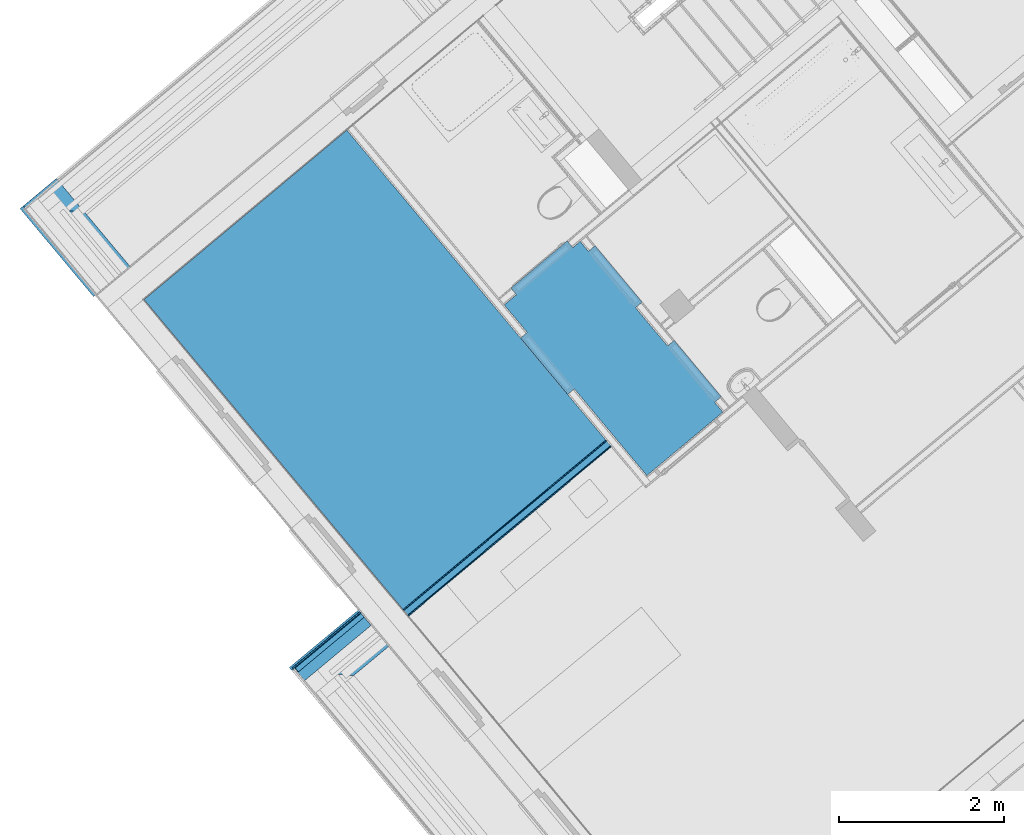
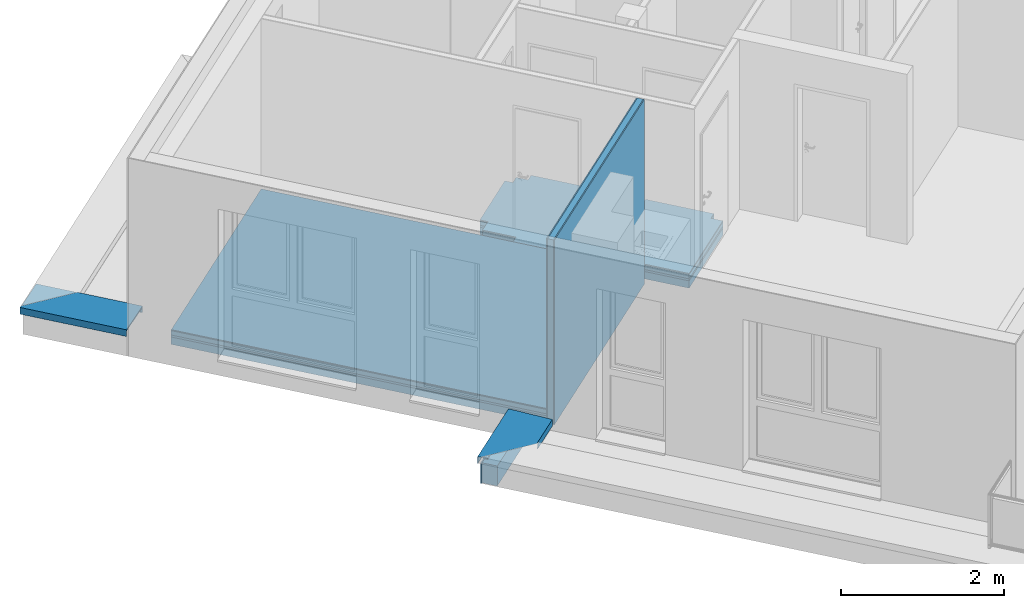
# One storey, part 22 of 58: 17 building element parts, 5 elements without a shape of their own.
"""IFC4 building model written with IfcOpenShell, lengths in metres."""

from ifc_helpers import new_model, entity, si_unit, converted_unit, derived_unit, direction, frame, origin_with_axes, place, context, subcontext, project, spatial, polygons, material, type_object, element, aggregate, save


model = new_model("IFC4")

# Units and contexts
model_context = context("Model", 3, precision=1e-05, world=origin_with_axes(), true_north=direction((0.0, 1.0)))
body_context = subcontext(model_context, "Body", "Model", "MODEL_VIEW")
ifc_project = project(units=[si_unit("LENGTHUNIT", "METRE"), si_unit("AREAUNIT", "SQUARE_METRE"), si_unit("VOLUMEUNIT", "CUBIC_METRE"), converted_unit("PLANEANGLEUNIT", "DEGREE", entity("IfcPlaneAngleMeasure", 0.0174532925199), si_unit("PLANEANGLEUNIT", "RADIAN"), dimensions=[0, 0, 0, 0, 0, 0, 0]), converted_unit("TIMEUNIT", "Year", entity("IfcTimeMeasure", 31556926.0), si_unit("TIMEUNIT", "SECOND"), dimensions=[0, 0, 1, 0, 0, 0, 0]), si_unit("MASSUNIT", "GRAM", prefix="KILO"), si_unit("THERMODYNAMICTEMPERATUREUNIT", "DEGREE_CELSIUS"), si_unit("LUMINOUSINTENSITYUNIT", "LUMEN"), si_unit("ENERGYUNIT", "JOULE", prefix="MEGA"), derived_unit("THERMALCONDUCTANCEUNIT", [(si_unit("POWERUNIT", "WATT"), 1), (si_unit("LENGTHUNIT", "METRE"), -1), (si_unit("THERMODYNAMICTEMPERATUREUNIT", "KELVIN"), -1)]), derived_unit("SPECIFICHEATCAPACITYUNIT", [(si_unit("ENERGYUNIT", "JOULE"), 1), (si_unit("MASSUNIT", "GRAM", prefix="KILO"), -1), (si_unit("THERMODYNAMICTEMPERATUREUNIT", "KELVIN"), -1)]), derived_unit("MASSDENSITYUNIT", [(si_unit("MASSUNIT", "GRAM", prefix="KILO"), 1), (si_unit("VOLUMEUNIT", "CUBIC_METRE"), -1)])], contexts=[model_context])

# Site, building, storey
site_placement = place(None, frame((-0.00153261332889, -0.00661245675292, 0.0), z_axis=(0.0, 0.0, 1.0), x_axis=(1.0, 0.0, 0.0)))
site = spatial("IfcSite", under=ifc_project, at=site_placement, Name="Site", CompositionType="ELEMENT")
building_placement = place(site_placement, origin_with_axes())
building = spatial("IfcBuilding", under=site, at=building_placement, Name="Building", CompositionType="ELEMENT")
storey_placement = place(building_placement, frame((0.0, 0.0, 5.7), z_axis=(0.0, 0.0, 1.0), x_axis=(1.0, 0.0, 0.0)))
storey = spatial("IfcBuildingStorey", under=building, at=storey_placement, Name="DG1", CompositionType="ELEMENT", Elevation=5.7)

# Wall, building element parts
wall_type_1 = type_object("IfcWallType", Name="IW LB 01 Leichtbautrennwand einfach 10,5 cm 105", PredefinedType="NOTDEFINED")
wall_1_placement = place(storey_placement, frame((-2.49988703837, 17.264591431, 0.0), z_axis=(0.0, 0.0, 1.0), x_axis=(-0.767365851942, -0.641209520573, 0.0)))
wall_1 = element("IfcWall", 1, at=wall_1_placement, inside=storey, type_object=wall_type_1, Name="Wand-012", PredefinedType="NOTDEFINED")
ifc_material_1 = material(Name="Gipskarton")
building_element_part_1_placement = place(wall_1_placement, origin_with_axes())
building_element_part_1 = element("IfcBuildingElementPart", 2, at=building_element_part_1_placement, material=ifc_material_1, Name="Gipskarton", PredefinedType="NOTDEFINED", context=body_context, shape_type="Tessellation", body=[
    polygons([(3.20025354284, 0.09, 0.0), (0.0, 0.09, 0.0), (0.0, 0.105, 0.0), (3.20025354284, 0.105, 0.0), (3.20025354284, 0.09, 2.76), (0.0, 0.09, 2.76), (0.0, 0.105, 2.76), (3.20025354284, 0.105, 2.76)], [[[1, 2, 3, 4]], [[5, 6, 2, 1]], [[3, 2, 6, 7]], [[4, 3, 7, 8]], [[4, 8, 5, 1]], [[8, 7, 6, 5]]], closed=True),
])
ifc_material_2 = material(Name="Mineralwolle weich")
building_element_part_2_placement = place(wall_1_placement, origin_with_axes())
building_element_part_2 = element("IfcBuildingElementPart", 3, at=building_element_part_2_placement, material=ifc_material_2, Name="Mineralwolle weich", PredefinedType="NOTDEFINED", context=body_context, shape_type="Tessellation", body=[
    polygons([(3.20025354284, 0.015, 0.0), (0.0, 0.015, 0.0), (0.0, 0.09, 0.0), (3.20025354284, 0.09, 0.0), (3.20025354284, 0.015, 2.76), (0.0, 0.015, 2.76), (0.0, 0.09, 2.76), (3.20025354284, 0.09, 2.76)], [[[1, 2, 3, 4]], [[5, 6, 2, 1]], [[3, 2, 6, 7]], [[4, 3, 7, 8]], [[4, 8, 5, 1]], [[8, 7, 6, 5]]], closed=True),
])
building_element_part_3_placement = place(wall_1_placement, origin_with_axes())
building_element_part_3 = element("IfcBuildingElementPart", 4, at=building_element_part_3_placement, material=ifc_material_1, Name="Gipskarton", PredefinedType="NOTDEFINED", context=body_context, shape_type="Tessellation", body=[
    polygons([(3.20025354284, 0.0, 0.0), (0.0, 0.0, 0.0), (0.0, 0.015, 0.0), (3.20025354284, 0.015, 0.0), (3.20025354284, 0.0, 2.76), (0.0, 0.0, 2.76), (0.0, 0.015, 2.76), (3.20025354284, 0.015, 2.76)], [[[1, 2, 3, 4]], [[5, 6, 2, 1]], [[3, 2, 6, 7]], [[4, 3, 7, 8]], [[4, 8, 5, 1]], [[8, 7, 6, 5]]], closed=True),
])
aggregate(wall_1, [building_element_part_1, building_element_part_2, building_element_part_3])

# Covering, building element parts
covering_type_1 = type_object("IfcCoveringType", Name="DE 01 Decke Wohnung/Wohnung Parkett 220", PredefinedType="NOTDEFINED")
covering_1_placement = place(storey_placement, frame((-5.63570752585, 21.0173764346, 0.22), z_axis=(0.0, 0.0, 1.0), x_axis=(1.0, 0.0, 0.0)))
covering_1 = element("IfcCovering", 5, at=covering_1_placement, inside=storey, type_object=covering_type_1, Name="Decke-009", PredefinedType="NOTDEFINED")
ifc_material_3 = material(Name="Parkett")
building_element_part_4_placement = place(covering_1_placement, origin_with_axes())
building_element_part_4 = element("IfcBuildingElementPart", 6, at=building_element_part_4_placement, material=ifc_material_3, Name="Parkett", PredefinedType="NOTDEFINED", context=body_context, shape_type="Tessellation", body=[
    polygons([(0.0, 0.0, -0.015), (-2.45576522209, -2.05203295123, -0.015), (-2.45576522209, -2.05203295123, 0.0), (0.0, 0.0, 0.0), (3.13582050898, -3.75278509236, -0.015), (0.680055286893, -5.8048180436, -0.015), (0.680055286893, -5.8048180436, 0.0), (3.13582050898, -3.75278509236, 0.0)], [[[1, 2, 3, 4]], [[2, 1, 5, 6]], [[2, 6, 7, 3]], [[8, 4, 3, 7]], [[5, 1, 4, 8]], [[6, 5, 8, 7]]], closed=True),
])
ifc_material_4 = material(Name="Estrich")
building_element_part_5_placement = place(covering_1_placement, origin_with_axes())
building_element_part_5 = element("IfcBuildingElementPart", 7, at=building_element_part_5_placement, material=ifc_material_4, Name="Estrich", PredefinedType="NOTDEFINED", context=body_context, shape_type="Tessellation", body=[
    polygons([(0.0, 0.0, -0.08), (-2.45576522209, -2.05203295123, -0.08), (-2.45576522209, -2.05203295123, -0.015), (0.0, 0.0, -0.015), (3.13582050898, -3.75278509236, -0.08), (0.680055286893, -5.8048180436, -0.08), (0.680055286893, -5.8048180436, -0.015), (3.13582050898, -3.75278509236, -0.015)], [[[1, 2, 3, 4]], [[2, 1, 5, 6]], [[2, 6, 7, 3]], [[8, 4, 3, 7]], [[5, 1, 4, 8]], [[6, 5, 8, 7]]], closed=True),
])
ifc_material_5 = material(Name="Trittschalldämmung")
building_element_part_6_placement = place(covering_1_placement, origin_with_axes())
building_element_part_6 = element("IfcBuildingElementPart", 8, at=building_element_part_6_placement, material=ifc_material_5, Name="Trittschalldämmung", PredefinedType="NOTDEFINED", context=body_context, shape_type="Tessellation", body=[
    polygons([(0.0, 0.0, -0.11), (-2.45576522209, -2.05203295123, -0.11), (-2.45576522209, -2.05203295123, -0.08), (0.0, 0.0, -0.08), (3.13582050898, -3.75278509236, -0.11), (0.680055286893, -5.8048180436, -0.11), (0.680055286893, -5.8048180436, -0.08), (3.13582050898, -3.75278509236, -0.08)], [[[1, 2, 3, 4]], [[2, 1, 5, 6]], [[2, 6, 7, 3]], [[8, 4, 3, 7]], [[5, 1, 4, 8]], [[6, 5, 8, 7]]], closed=True),
])
ifc_material_6 = material(Name="Schüttung")
building_element_part_7_placement = place(covering_1_placement, origin_with_axes())
building_element_part_7 = element("IfcBuildingElementPart", 9, at=building_element_part_7_placement, material=ifc_material_6, Name="Schüttung", PredefinedType="NOTDEFINED", context=body_context, shape_type="Tessellation", body=[
    polygons([(0.0, 0.0, -0.11), (0.0, 0.0, -0.22), (-2.45576522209, -2.05203295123, -0.22), (-2.45576522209, -2.05203295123, -0.11), (3.13582050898, -3.75278509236, -0.11), (3.13582050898, -3.75278509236, -0.22), (0.680055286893, -5.8048180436, -0.22), (0.680055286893, -5.8048180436, -0.11)], [[[1, 2, 3, 4]], [[5, 6, 2, 1]], [[3, 2, 6, 7]], [[4, 3, 7, 8]], [[5, 1, 4, 8]], [[8, 7, 6, 5]]], closed=True),
])
aggregate(covering_1, [building_element_part_4, building_element_part_5, building_element_part_6, building_element_part_7])

covering_type_2 = type_object("IfcCoveringType", Name="DE 01 Decke Wohnung/Wohnung Fließen 220", PredefinedType="NOTDEFINED")
covering_2_placement = place(storey_placement, frame((-3.58229735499, 19.0241226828, 0.22), z_axis=(0.0, 0.0, 1.0), x_axis=(1.0, 0.0, 0.0)))
covering_2 = element("IfcCovering", 10, at=covering_2_placement, inside=storey, type_object=covering_type_2, Name="Decke-003", PredefinedType="NOTDEFINED")
ifc_material_7 = material(Name="Fliesen")
building_element_part_8_placement = place(covering_2_placement, origin_with_axes())
building_element_part_8 = element("IfcBuildingElementPart", 11, at=building_element_part_8_placement, material=ifc_material_7, Name="Fliesen", PredefinedType="NOTDEFINED", context=body_context, shape_type="Tessellation", body=[
    polygons([(0.772026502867, 0.645686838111, -0.015), (0.772026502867, 0.645686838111, 0.0), (0.871992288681, 0.526053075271, 0.0), (0.871992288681, 0.526053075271, -0.015), (0.682704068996, 0.570977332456, 0.0), (0.682704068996, 0.570977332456, -0.015), (0.6825988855, 0.57110308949, 0.0), (0.615338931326, 0.651518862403, 0.0), (-0.0673464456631, 0.0805191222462, 0.0), (-1.94673659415e-08, -1.62825521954e-08, 0.0), (1.87046381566e-05, -2.24027601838e-05, 0.0), (-0.147735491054, -0.123604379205, 0.0), (0.13108354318, -0.457280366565, 0.0), (0.0505101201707, -0.524607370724, 0.0), (0.621186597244, -1.20756298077, 0.0), (0.701760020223, -1.14023597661, 0.0), (1.57974343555, -2.1909603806, 0.0), (2.49986944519, -1.42210479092, 0.0), (2.40026170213, -1.30289938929, 0.0), (2.48083508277, -1.23557242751, 0.0), (1.91015864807, -0.552616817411, 0.0), (1.82958522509, -0.61994382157, 0.0), (1.44266872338, -0.156902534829, 0.0), (1.52324214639, -0.0895755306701, 0.0), (0.952565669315, 0.59338007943, 0.0), (0.952565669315, 0.59338007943, -0.015), (1.52324214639, -0.0895755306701, -0.015), (1.44266872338, -0.156902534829, -0.015), (1.82958522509, -0.61994382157, -0.015), (1.91015864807, -0.552616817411, -0.015), (2.48083508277, -1.23557242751, -0.015), (2.40026170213, -1.30289938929, -0.015), (2.49986944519, -1.42210479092, -0.015), (1.57974343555, -2.1909603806, -0.015), (0.701760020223, -1.14023597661, -0.015), (0.621186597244, -1.20756298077, -0.015), (0.0505101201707, -0.524607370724, -0.015), (0.13108354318, -0.457280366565, -0.015), (-0.147735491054, -0.123604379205, -0.015), (1.87046381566e-05, -2.24027601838e-05, -0.015), (-1.94673659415e-08, -1.62825521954e-08, -0.015), (-0.0673464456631, 0.0805191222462, -0.015), (0.615338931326, 0.651518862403, -0.015), (0.6825988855, 0.57110308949, -0.015)], [[[1, 2, 3, 4]], [[5, 2, 1, 6]], [[5, 7, 8, 9, 10, 11, 12, 13, 14, 15, 16, 17, 18, 19, 20, 21, 22, 23, 24, 25, 3, 2]], [[26, 4, 3, 25]], [[6, 1, 4, 26, 27, 28, 29, 30, 31, 32, 33, 34, 35, 36, 37, 38, 39, 40, 41, 42, 43, 44]], [[7, 5, 6, 44]], [[7, 44, 43, 8]], [[43, 42, 9, 8]], [[41, 10, 9, 42]], [[11, 10, 41, 40]], [[12, 11, 40, 39]], [[12, 39, 38, 13]], [[38, 37, 14, 13]], [[37, 36, 15, 14]], [[36, 35, 16, 15]], [[35, 34, 17, 16]], [[34, 33, 18, 17]], [[33, 32, 19, 18]], [[32, 31, 20, 19]], [[31, 30, 21, 20]], [[30, 29, 22, 21]], [[29, 28, 23, 22]], [[28, 27, 24, 23]], [[27, 26, 25, 24]]], closed=True),
])
building_element_part_9_placement = place(covering_2_placement, origin_with_axes())
building_element_part_9 = element("IfcBuildingElementPart", 12, at=building_element_part_9_placement, material=ifc_material_4, Name="Estrich", PredefinedType="NOTDEFINED", context=body_context, shape_type="Tessellation", body=[
    polygons([(0.772026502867, 0.645686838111, -0.08), (0.772026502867, 0.645686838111, -0.015), (0.871992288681, 0.526053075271, -0.015), (0.871992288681, 0.526053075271, -0.08), (0.682704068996, 0.570977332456, -0.015), (0.682704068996, 0.570977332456, -0.08), (0.6825988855, 0.57110308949, -0.015), (0.615338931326, 0.651518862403, -0.015), (-0.0673464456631, 0.0805191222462, -0.015), (-1.94673659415e-08, -1.62825521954e-08, -0.015), (1.87046381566e-05, -2.24027601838e-05, -0.015), (-0.147735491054, -0.123604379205, -0.015), (0.13108354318, -0.457280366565, -0.015), (0.0505101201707, -0.524607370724, -0.015), (0.621186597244, -1.20756298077, -0.015), (0.701760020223, -1.14023597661, -0.015), (1.57974343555, -2.1909603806, -0.015), (2.49986944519, -1.42210479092, -0.015), (2.40026170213, -1.30289938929, -0.015), (2.48083508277, -1.23557242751, -0.015), (1.91015864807, -0.552616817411, -0.015), (1.82958522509, -0.61994382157, -0.015), (1.44266872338, -0.156902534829, -0.015), (1.52324214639, -0.0895755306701, -0.015), (0.952565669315, 0.59338007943, -0.015), (0.952565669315, 0.59338007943, -0.08), (1.52324214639, -0.0895755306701, -0.08), (1.44266872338, -0.156902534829, -0.08), (1.82958522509, -0.61994382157, -0.08), (1.91015864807, -0.552616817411, -0.08), (2.48083508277, -1.23557242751, -0.08), (2.40026170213, -1.30289938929, -0.08), (2.49986944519, -1.42210479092, -0.08), (1.57974343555, -2.1909603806, -0.08), (0.701760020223, -1.14023597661, -0.08), (0.621186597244, -1.20756298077, -0.08), (0.0505101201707, -0.524607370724, -0.08), (0.13108354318, -0.457280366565, -0.08), (-0.147735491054, -0.123604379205, -0.08), (1.87046381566e-05, -2.24027601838e-05, -0.08), (-1.94673659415e-08, -1.62825521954e-08, -0.08), (-0.0673464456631, 0.0805191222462, -0.08), (0.615338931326, 0.651518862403, -0.08), (0.6825988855, 0.57110308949, -0.08)], [[[1, 2, 3, 4]], [[5, 2, 1, 6]], [[5, 7, 8, 9, 10, 11, 12, 13, 14, 15, 16, 17, 18, 19, 20, 21, 22, 23, 24, 25, 3, 2]], [[26, 4, 3, 25]], [[6, 1, 4, 26, 27, 28, 29, 30, 31, 32, 33, 34, 35, 36, 37, 38, 39, 40, 41, 42, 43, 44]], [[7, 5, 6, 44]], [[7, 44, 43, 8]], [[43, 42, 9, 8]], [[41, 10, 9, 42]], [[11, 10, 41, 40]], [[12, 11, 40, 39]], [[12, 39, 38, 13]], [[38, 37, 14, 13]], [[37, 36, 15, 14]], [[36, 35, 16, 15]], [[35, 34, 17, 16]], [[34, 33, 18, 17]], [[33, 32, 19, 18]], [[32, 31, 20, 19]], [[31, 30, 21, 20]], [[30, 29, 22, 21]], [[29, 28, 23, 22]], [[28, 27, 24, 23]], [[27, 26, 25, 24]]], closed=True),
])
building_element_part_10_placement = place(covering_2_placement, origin_with_axes())
building_element_part_10 = element("IfcBuildingElementPart", 13, at=building_element_part_10_placement, material=ifc_material_5, Name="Trittschalldämmung", PredefinedType="NOTDEFINED", context=body_context, shape_type="Tessellation", body=[
    polygons([(0.772026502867, 0.645686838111, -0.11), (0.772026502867, 0.645686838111, -0.08), (0.871992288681, 0.526053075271, -0.08), (0.871992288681, 0.526053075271, -0.11), (0.682704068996, 0.570977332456, -0.08), (0.682704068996, 0.570977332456, -0.11), (0.6825988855, 0.57110308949, -0.08), (0.615338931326, 0.651518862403, -0.08), (-0.0673464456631, 0.0805191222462, -0.08), (-1.94673659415e-08, -1.62825521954e-08, -0.08), (1.87046381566e-05, -2.24027601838e-05, -0.08), (-0.147735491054, -0.123604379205, -0.08), (0.13108354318, -0.457280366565, -0.08), (0.0505101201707, -0.524607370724, -0.08), (0.621186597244, -1.20756298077, -0.08), (0.701760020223, -1.14023597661, -0.08), (1.57974343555, -2.1909603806, -0.08), (2.49986944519, -1.42210479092, -0.08), (2.40026170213, -1.30289938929, -0.08), (2.48083508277, -1.23557242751, -0.08), (1.91015864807, -0.552616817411, -0.08), (1.82958522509, -0.61994382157, -0.08), (1.44266872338, -0.156902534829, -0.08), (1.52324214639, -0.0895755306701, -0.08), (0.952565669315, 0.59338007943, -0.08), (0.952565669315, 0.59338007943, -0.11), (1.52324214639, -0.0895755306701, -0.11), (1.44266872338, -0.156902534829, -0.11), (1.82958522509, -0.61994382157, -0.11), (1.91015864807, -0.552616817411, -0.11), (2.48083508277, -1.23557242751, -0.11), (2.40026170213, -1.30289938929, -0.11), (2.49986944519, -1.42210479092, -0.11), (1.57974343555, -2.1909603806, -0.11), (0.701760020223, -1.14023597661, -0.11), (0.621186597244, -1.20756298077, -0.11), (0.0505101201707, -0.524607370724, -0.11), (0.13108354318, -0.457280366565, -0.11), (-0.147735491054, -0.123604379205, -0.11), (1.87046381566e-05, -2.24027601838e-05, -0.11), (-1.94673659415e-08, -1.62825521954e-08, -0.11), (-0.0673464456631, 0.0805191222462, -0.11), (0.615338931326, 0.651518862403, -0.11), (0.6825988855, 0.57110308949, -0.11)], [[[1, 2, 3, 4]], [[5, 2, 1, 6]], [[5, 7, 8, 9, 10, 11, 12, 13, 14, 15, 16, 17, 18, 19, 20, 21, 22, 23, 24, 25, 3, 2]], [[26, 4, 3, 25]], [[6, 1, 4, 26, 27, 28, 29, 30, 31, 32, 33, 34, 35, 36, 37, 38, 39, 40, 41, 42, 43, 44]], [[7, 5, 6, 44]], [[7, 44, 43, 8]], [[43, 42, 9, 8]], [[41, 10, 9, 42]], [[11, 10, 41, 40]], [[12, 11, 40, 39]], [[12, 39, 38, 13]], [[38, 37, 14, 13]], [[37, 36, 15, 14]], [[36, 35, 16, 15]], [[35, 34, 17, 16]], [[34, 33, 18, 17]], [[33, 32, 19, 18]], [[32, 31, 20, 19]], [[31, 30, 21, 20]], [[30, 29, 22, 21]], [[29, 28, 23, 22]], [[28, 27, 24, 23]], [[27, 26, 25, 24]]], closed=True),
])
building_element_part_11_placement = place(covering_2_placement, origin_with_axes())
building_element_part_11 = element("IfcBuildingElementPart", 14, at=building_element_part_11_placement, material=ifc_material_6, Name="Schüttung", PredefinedType="NOTDEFINED", context=body_context, shape_type="Tessellation", body=[
    polygons([(0.772026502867, 0.645686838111, -0.22), (0.772026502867, 0.645686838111, -0.11), (0.871992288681, 0.526053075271, -0.11), (0.871992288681, 0.526053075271, -0.22), (0.682704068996, 0.570977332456, -0.11), (0.682704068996, 0.570977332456, -0.22), (0.6825988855, 0.57110308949, -0.11), (0.615338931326, 0.651518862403, -0.11), (-0.0673464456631, 0.0805191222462, -0.11), (-1.94673659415e-08, -1.62825521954e-08, -0.11), (1.87046381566e-05, -2.24027601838e-05, -0.11), (-0.147735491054, -0.123604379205, -0.11), (0.13108354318, -0.457280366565, -0.11), (0.0505101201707, -0.524607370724, -0.11), (0.621186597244, -1.20756298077, -0.11), (0.701760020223, -1.14023597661, -0.11), (1.57974343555, -2.1909603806, -0.11), (2.49986944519, -1.42210479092, -0.11), (2.40026170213, -1.30289938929, -0.11), (2.48083508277, -1.23557242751, -0.11), (1.91015864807, -0.552616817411, -0.11), (1.82958522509, -0.61994382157, -0.11), (1.44266872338, -0.156902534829, -0.11), (1.52324214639, -0.0895755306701, -0.11), (0.952565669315, 0.59338007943, -0.11), (0.952565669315, 0.59338007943, -0.22), (1.52324214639, -0.0895755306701, -0.22), (1.44266872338, -0.156902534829, -0.22), (1.82958522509, -0.61994382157, -0.22), (1.91015864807, -0.552616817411, -0.22), (2.48083508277, -1.23557242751, -0.22), (2.40026170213, -1.30289938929, -0.22), (2.49986944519, -1.42210479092, -0.22), (1.57974343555, -2.1909603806, -0.22), (0.701760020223, -1.14023597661, -0.22), (0.621186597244, -1.20756298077, -0.22), (0.0505101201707, -0.524607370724, -0.22), (0.13108354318, -0.457280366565, -0.22), (-0.147735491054, -0.123604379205, -0.22), (1.87046381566e-05, -2.24027601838e-05, -0.22), (-1.94673646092e-08, -1.62825521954e-08, -0.22), (-0.0673464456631, 0.0805191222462, -0.22), (0.615338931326, 0.651518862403, -0.22), (0.682598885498, 0.571103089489, -0.22)], [[[1, 2, 3, 4]], [[5, 2, 1, 6]], [[5, 7, 8, 9, 10, 11, 12, 13, 14, 15, 16, 17, 18, 19, 20, 21, 22, 23, 24, 25, 3, 2]], [[25, 26, 4, 3]], [[6, 1, 4, 26, 27, 28, 29, 30, 31, 32, 33, 34, 35, 36, 37, 38, 39, 40, 41, 42, 43, 44]], [[7, 5, 6, 44]], [[7, 44, 43, 8]], [[8, 43, 42, 9]], [[41, 10, 9, 42]], [[11, 10, 41, 40]], [[12, 11, 40, 39]], [[12, 39, 38, 13]], [[13, 38, 37, 14]], [[14, 37, 36, 15]], [[15, 36, 35, 16]], [[16, 35, 34, 17]], [[17, 34, 33, 18]], [[18, 33, 32, 19]], [[19, 32, 31, 20]], [[20, 31, 30, 21]], [[21, 30, 29, 22]], [[22, 29, 28, 23]], [[23, 28, 27, 24]], [[24, 27, 26, 25]]], closed=True),
])
aggregate(covering_2, [building_element_part_8, building_element_part_9, building_element_part_10, building_element_part_11])

# Wall, building element parts
wall_type_2 = type_object("IfcWallType", Name="Bauteil - Attika Terrasse 1.DG 574 x 410", PredefinedType="NOTDEFINED")
wall_2_placement = place(storey_placement, frame((-5.34189117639, 15.0197766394, -0.2), z_axis=(0.0, 0.0, 1.0), x_axis=(-0.768971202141, -0.639283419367, 0.0)))
wall_2 = element("IfcWall", 15, at=wall_2_placement, inside=storey, type_object=wall_type_2, Name="Wand-003", PredefinedType="NOTDEFINED")
ifc_material_8 = material(Name="Stahl")
building_element_part_12_placement = place(wall_2_placement, origin_with_axes())
building_element_part_12 = element("IfcBuildingElementPart", 16, at=building_element_part_12_placement, material=ifc_material_8, Name="Stahl", PredefinedType="NOTDEFINED", context=body_context, shape_type="Tessellation", body=[
    polygons([(1.08738524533, -0.238231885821, 0.511361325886), (1.08051224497, -0.23137340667, 0.518219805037), (1.07950992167, -0.23228372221, 0.519224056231), (1.08738929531, -0.24014644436, 0.511361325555), (1.08873905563, -0.238231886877, 0.511361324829), (1.08874191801, -0.239585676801, 0.510007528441), (1.08778665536, -0.240542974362, 0.509050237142), (0.0, -0.240542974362, 0.509050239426), (0.0, -0.231373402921, 0.518219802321), (0.0, -0.232283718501, 0.519224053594), (0.0, -0.240146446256, 0.51136132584), (1.08874310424, -0.240146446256, 0.51136132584), (1.08874311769, -0.240152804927, 0.608602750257), (1.08866395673, -0.202730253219, 0.608602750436), (1.08874596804, -0.241500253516, 0.610006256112), (1.08874596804, -0.241500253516, 0.510007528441), (0.0, -0.241500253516, 0.510007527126), (0.0, -0.241500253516, 0.610006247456), (0.0, 0.332051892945, 0.589243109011), (0.0, 0.332051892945, 0.489652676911), (0.0, 0.331094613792, 0.488695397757), (0.0, 0.321878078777, 0.497911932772), (0.0, 0.32288233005, 0.498822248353), (0.0, 0.330698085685, 0.491006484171), (0.0, 0.330698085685, 0.587937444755), (0.0, -0.239276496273, 0.608570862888), (0.0, -0.240152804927, 0.608602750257), (1.08739566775, -0.240152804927, 0.608602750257), (1.0873165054, -0.202730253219, 0.608602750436), (1.086438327, -0.201849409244, 0.608570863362), (0.551370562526, 0.332051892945, 0.589243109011), (0.517247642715, 0.332051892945, 0.49100648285), (0.515893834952, 0.332051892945, 0.489652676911), (0.515333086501, 0.332051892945, 0.587938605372), (0.515333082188, 0.332051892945, 0.586106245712), (0.515333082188, 0.332051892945, 0.584015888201), (0.515333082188, 0.332051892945, 0.575979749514), (0.515333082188, 0.332051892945, 0.573880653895), (0.515333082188, 0.332051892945, 0.567947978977), (0.515333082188, 0.332051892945, 0.559999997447), (0.515333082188, 0.332051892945, 0.519224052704), (0.515333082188, 0.332051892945, 0.511361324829), (0.515333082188, 0.332051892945, 0.50905023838), (0.515333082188, 0.332051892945, 0.499999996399), (0.515333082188, 0.332051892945, 0.498822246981), (0.515333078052, 0.332051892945, 0.491006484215), (0.514938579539, 0.331094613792, 0.488695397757), (0.517254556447, 0.328783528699, 0.49100648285), (0.524174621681, 0.32187807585, 0.497911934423), (0.523168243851, 0.322882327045, 0.498822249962), (0.524170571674, 0.323792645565, 0.497911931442), (0.517250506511, 0.330698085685, 0.491006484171), (0.515335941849, 0.330698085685, 0.491006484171), (0.515335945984, 0.330698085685, 0.586106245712), (0.51533599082, 0.330698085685, 0.587937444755), (0.515335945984, 0.330698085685, 0.498822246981), (0.515335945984, 0.330698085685, 0.499999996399), (0.515335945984, 0.330698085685, 0.50905023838), (0.515335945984, 0.330698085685, 0.511361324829), (0.515335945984, 0.330698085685, 0.519224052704), (0.515335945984, 0.330698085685, 0.559999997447), (0.515335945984, 0.330698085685, 0.567947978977), (0.515335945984, 0.330698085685, 0.573880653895), (0.515335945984, 0.330698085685, 0.575979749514), (0.515335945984, 0.330698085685, 0.584015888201), (0.515336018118, 0.330666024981, 0.587938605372), (1.08651749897, -0.239276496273, 0.608570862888)], [[[1, 2, 3, 4]], [[2, 1, 5, 6, 7, 8, 9]], [[3, 2, 9, 10]], [[4, 3, 10, 11]], [[12, 5, 1, 4]], [[13, 14, 15, 16, 6, 5, 12]], [[16, 7, 6]], [[7, 16, 17, 8]], [[8, 17, 18, 19, 20, 21, 22, 23, 24, 25, 26, 27, 11, 10, 9]], [[13, 12, 4, 11, 27, 28]], [[14, 13, 28, 29]], [[30, 31, 19, 18, 15, 14, 29]], [[16, 15, 18, 17]], [[32, 33, 20, 19, 31, 34, 35, 36, 37, 38, 39, 40, 41, 42, 43, 44, 45, 46]], [[33, 47, 21, 20]], [[48, 49, 22, 21, 47]], [[49, 50, 23, 22]], [[51, 52, 53, 24, 23, 50]], [[54, 55, 25, 24, 53, 56, 57, 58, 59, 60, 61, 62, 63, 64, 65]], [[55, 66, 67, 26, 25]], [[67, 28, 27, 26]], [[67, 30, 29, 28]], [[31, 30, 67, 66, 55, 34]], [[52, 48, 47, 33, 32]], [[34, 55, 54, 35]], [[36, 35, 54, 65]], [[37, 36, 65, 64]], [[38, 37, 64, 63]], [[39, 38, 63, 62]], [[40, 39, 62, 61]], [[41, 40, 61, 60]], [[42, 41, 60, 59]], [[58, 43, 42, 59]], [[57, 44, 43, 58]], [[56, 45, 44, 57]], [[45, 56, 53, 46]], [[52, 32, 46, 53]], [[48, 52, 51, 49]], [[49, 51, 50]]], closed=True),
])
ifc_material_9 = material(Name="EPS 1")
building_element_part_13_placement = place(wall_2_placement, origin_with_axes())
building_element_part_13 = element("IfcBuildingElementPart", 17, at=building_element_part_13_placement, material=ifc_material_9, Name="EPS 1", PredefinedType="NOTDEFINED", context=body_context, shape_type="Tessellation", body=[
    polygons([(1.04715779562, -0.19999996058, 0.499999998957), (1.04673472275, -2.39909425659e-10, 0.499999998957), (0.0, -2.39909425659e-10, 0.499999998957), (0.0, -0.19999996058, 0.499999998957), (1.04673472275, -2.39909425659e-10, 0.498822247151), (1.04715779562, -0.19999996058, 0.498822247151), (1.04673472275, -2.39909425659e-10, 0.49100648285), (1.04673472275, -2.39909425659e-10, 0.488695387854), (1.04673472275, -2.39909425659e-10, 0.335), (1.04673472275, -2.39907649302e-10, 0.2), (0.0, -2.39909425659e-10, 0.2), (0.0, -0.19999996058, 0.2), (1.04715779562, -0.19999996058, 0.2), (1.04715779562, -0.19999996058, 0.335), (1.04715779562, -0.19999996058, 0.488695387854), (1.04715779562, -0.19999996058, 0.49100648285)], [[[1, 2, 3, 4]], [[5, 2, 1, 6]], [[2, 5, 7, 8, 9, 10, 11, 3]], [[12, 4, 3, 11]], [[6, 1, 4, 12, 13, 14, 15, 16]], [[5, 6, 16, 7]], [[7, 16, 15, 8]], [[8, 15, 14, 9]], [[9, 14, 13, 10]], [[10, 13, 12, 11]]], closed=True),
])
ifc_material_10 = material(Name="Vollholz")
building_element_part_14_placement = place(wall_2_placement, origin_with_axes())
building_element_part_14 = element("IfcBuildingElementPart", 18, at=building_element_part_14_placement, material=ifc_material_10, Name="Vollholz", PredefinedType="NOTDEFINED", context=body_context, shape_type="Tessellation", body=[
    polygons([(1.03712153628, -0.189984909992, 0.586106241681), (1.03700612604, -0.130124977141, 0.584015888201), (0.0, -0.130124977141, 0.584015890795), (0.0, -0.189984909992, 0.586106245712), (1.03713277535, -0.189996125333, 0.584015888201), (1.03704924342, -0.130124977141, 0.575979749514), (1.03706050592, -0.130124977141, 0.573880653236), (1.03709233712, -0.130124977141, 0.567947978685), (1.03713498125, -0.130124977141, 0.559999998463), (0.0, -0.130124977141, 0.560000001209), (0.0, -0.190124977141, 0.560000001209), (1.03726190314, -0.190124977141, 0.559999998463), (1.0372191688, -0.190082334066, 0.567947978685), (1.03718727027, -0.190050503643, 0.573880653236), (1.03717598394, -0.190039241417, 0.575979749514)], [[[1, 2, 3, 4]], [[5, 2, 1]], [[2, 6, 7, 8, 9, 10, 3]], [[10, 11, 4, 3]], [[5, 1, 4, 11, 12, 13, 14, 15]], [[2, 5, 15, 6]], [[6, 15, 14, 7]], [[7, 14, 13, 8]], [[8, 13, 12, 9]], [[9, 12, 11, 10]]], closed=True),
])
ifc_material_11 = material(Name="Zementputz")
building_element_part_15_placement = place(wall_2_placement, origin_with_axes())
building_element_part_15 = element("IfcBuildingElementPart", 19, at=building_element_part_15_placement, material=ifc_material_11, Name="Zementputz", PredefinedType="NOTDEFINED", context=body_context, shape_type="Tessellation", body=[
    polygons([(1.06218956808, -0.214999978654, 0.499999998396), (1.06215783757, -0.199999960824, 0.499999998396), (0.0, -0.199999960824, 0.499999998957), (0.0, -0.214999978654, 0.499999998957), (1.06215783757, -0.199999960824, 0.2), (1.06218956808, -0.214999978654, 0.2), (0.0, -0.199999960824, 0.2), (0.0, -0.214999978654, 0.2)], [[[1, 2, 3, 4]], [[5, 2, 1, 6]], [[2, 5, 7, 3]], [[3, 7, 8, 4]], [[6, 1, 4, 8]], [[5, 6, 8, 7]]], closed=True),
])
aggregate(wall_2, [building_element_part_12, building_element_part_13, building_element_part_14, building_element_part_15])

wall_3_placement = place(storey_placement, frame((-9.25321199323, 20.0359436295, -0.2), z_axis=(0.0, 0.0, 1.0), x_axis=(0.641209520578, -0.767365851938, 0.0)))
wall_3 = element("IfcWall", 20, at=wall_3_placement, inside=storey, type_object=wall_type_2, Name="Wand-004", PredefinedType="NOTDEFINED")
building_element_part_16_placement = place(wall_3_placement, origin_with_axes())
building_element_part_16 = element("IfcBuildingElementPart", 21, at=building_element_part_16_placement, material=ifc_material_8, Name="Stahl", PredefinedType="NOTDEFINED", context=body_context, shape_type="Tessellation", body=[
    polygons([(-0.240543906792, -0.240542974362, 0.50905023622), (-0.241501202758, -0.241500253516, 0.510007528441), (-0.241501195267, -0.239585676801, 0.510007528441), (1.14646030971, -0.240542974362, 0.509050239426), (1.14646030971, -0.241500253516, 0.510007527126), (-0.241501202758, -0.241500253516, 0.610006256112), (-0.241501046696, -0.202730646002, 0.608602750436), (-0.241501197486, -0.240152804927, 0.608602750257), (-0.241501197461, -0.240146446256, 0.51136132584), (-0.241501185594, -0.238231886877, 0.511361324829), (-0.240147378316, -0.238231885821, 0.511361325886), (-0.233288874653, -0.23137340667, 0.518219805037), (1.14646030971, -0.231373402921, 0.518219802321), (1.14646030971, -0.232283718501, 0.519224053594), (1.14646030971, -0.240146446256, 0.51136132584), (1.14646030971, -0.240152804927, 0.608602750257), (1.14646030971, -0.239276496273, 0.608570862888), (1.14646030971, 0.330698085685, 0.587937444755), (1.14646030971, 0.330698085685, 0.491006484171), (1.14646030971, 0.32288233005, 0.498822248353), (1.14646030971, 0.321878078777, 0.497911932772), (1.14646030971, 0.331094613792, 0.488695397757), (1.14646030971, 0.332051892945, 0.489652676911), (1.14646030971, 0.332051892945, 0.589243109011), (1.14646030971, -0.241500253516, 0.610006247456), (0.294662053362, 0.332051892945, 0.589243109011), (-0.239277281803, -0.201849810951, 0.608570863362), (-0.240153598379, -0.202730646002, 0.608602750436), (-0.240153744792, -0.240152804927, 0.608602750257), (-0.240147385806, -0.24014644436, 0.511361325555), (-0.232284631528, -0.23228372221, 0.519224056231), (-0.23927742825, -0.239276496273, 0.608570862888), (0.330699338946, 0.330698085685, 0.587937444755), (0.330699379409, 0.33066589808, 0.587938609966), (0.330699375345, 0.330698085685, 0.586106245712), (0.330699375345, 0.330698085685, 0.584015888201), (0.330699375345, 0.330698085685, 0.575979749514), (0.330699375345, 0.330698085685, 0.573880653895), (0.330699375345, 0.330698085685, 0.567947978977), (0.330699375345, 0.330698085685, 0.559999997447), (0.330699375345, 0.330698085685, 0.519224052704), (0.330699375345, 0.330698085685, 0.511361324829), (0.330699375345, 0.330698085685, 0.50905023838), (0.330699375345, 0.330698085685, 0.499999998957), (0.330699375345, 0.330698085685, 0.498822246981), (0.33069937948, 0.330698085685, 0.491006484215), (0.328784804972, 0.330698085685, 0.491006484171), (0.321879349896, 0.323792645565, 0.497911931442), (0.32288359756, 0.322882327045, 0.498822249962), (0.321879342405, 0.32187807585, 0.497911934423), (0.328784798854, 0.328783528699, 0.49100648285), (0.331095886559, 0.331094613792, 0.488695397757), (0.330138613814, 0.332051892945, 0.489652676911), (0.32878481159, 0.332051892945, 0.49100648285), (0.330699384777, 0.332051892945, 0.491006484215), (0.330699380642, 0.332051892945, 0.498822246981), (0.330699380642, 0.332051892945, 0.499999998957), (0.330699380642, 0.332051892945, 0.50905023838), (0.330699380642, 0.332051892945, 0.511361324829), (0.330699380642, 0.332051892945, 0.519224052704), (0.330699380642, 0.332051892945, 0.559999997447), (0.330699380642, 0.332051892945, 0.567947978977), (0.330699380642, 0.332051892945, 0.573880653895), (0.330699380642, 0.332051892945, 0.575979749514), (0.330699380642, 0.332051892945, 0.584015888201), (0.330699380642, 0.332051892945, 0.586106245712), (0.330699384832, 0.332051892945, 0.587938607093)], [[[1, 2, 3]], [[2, 1, 4, 5]], [[3, 2, 6, 7, 8, 9, 10]], [[1, 3, 10, 11, 12, 13, 4]], [[5, 4, 13, 14, 15, 16, 17, 18, 19, 20, 21, 22, 23, 24, 25]], [[6, 2, 5, 25]], [[26, 27, 28, 7, 6, 25, 24]], [[29, 8, 7, 28]], [[30, 9, 8, 29, 16, 15]], [[9, 30, 11, 10]], [[30, 31, 12, 11]], [[12, 31, 14, 13]], [[31, 30, 15, 14]], [[29, 32, 17, 16]], [[33, 18, 17, 32, 34]], [[18, 33, 35, 36, 37, 38, 39, 40, 41, 42, 43, 44, 45, 46, 19]], [[47, 48, 49, 20, 19, 46]], [[49, 50, 21, 20]], [[50, 51, 52, 22, 21]], [[52, 53, 23, 22]], [[26, 24, 23, 53, 54, 55, 56, 57, 58, 59, 60, 61, 62, 63, 64, 65, 66, 67]], [[32, 27, 26, 67, 33, 34]], [[27, 32, 29, 28]], [[33, 67, 66, 35]], [[36, 35, 66, 65]], [[37, 36, 65, 64]], [[63, 38, 37, 64]], [[39, 38, 63, 62]], [[40, 39, 62, 61]], [[41, 40, 61, 60]], [[42, 41, 60, 59]], [[43, 42, 59, 58]], [[57, 44, 43, 58]], [[56, 45, 44, 57]], [[46, 45, 56, 55]], [[47, 51, 50, 48]], [[48, 50, 49]], [[47, 46, 55, 54]], [[51, 47, 54, 53, 52]]], closed=True),
])
ifc_material_12 = material(Name="Holzwerkstoff")
building_element_part_17_placement = place(wall_3_placement, origin_with_axes())
building_element_part_17 = element("IfcBuildingElementPart", 22, at=building_element_part_17_placement, material=ifc_material_12, Name="Holzwerkstoff", PredefinedType="NOTDEFINED", context=body_context, shape_type="Tessellation", body=[
    polygons([(-0.240000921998, -0.239999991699, 0.587852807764), (-0.189985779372, -0.189984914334, 0.586106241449), (1.14646030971, -0.189984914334, 0.586106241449), (1.14646030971, -0.239999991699, 0.587852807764), (-0.239998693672, 0.33069508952, 0.587852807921), (-0.18998374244, 0.330634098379, 0.58610624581), (-0.130125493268, -0.130124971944, 0.58401588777), (1.14646030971, -0.130124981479, 0.584015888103), (1.14646030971, 0.100000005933, 0.575979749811), (1.14646030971, 0.160110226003, 0.573880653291), (1.14646030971, 0.329999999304, 0.567947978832), (1.14646030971, 0.330698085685, 0.587938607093), (1.14646030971, -0.239276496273, 0.608570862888), (-0.239997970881, -0.239997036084, 0.587937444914), (-0.23927742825, -0.239276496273, 0.608570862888), (-0.239995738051, 0.330698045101, 0.587937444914), (0.330001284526, 0.329999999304, 0.567947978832), (0.160111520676, 0.330207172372, 0.573880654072), (0.100001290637, 0.330280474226, 0.575979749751), (-0.130123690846, 0.33056110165, 0.58401588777), (0.100000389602, 0.100000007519, 0.575979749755), (0.16011085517, 0.160110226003, 0.573880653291)], [[[1, 2, 3, 4]], [[2, 1, 5, 6]], [[2, 7, 8, 3]], [[8, 9, 10, 11, 12, 13, 4, 3]], [[14, 1, 4, 13, 15]], [[1, 14, 16, 5]], [[17, 18, 19, 20, 6, 5, 16, 12, 11]], [[7, 2, 6, 20]], [[7, 21, 9, 8]], [[21, 22, 10, 9]], [[22, 17, 11, 10]], [[16, 15, 13, 12]], [[14, 15, 16]], [[18, 17, 22]], [[22, 21, 19, 18]], [[21, 7, 20, 19]]], closed=True),
])
aggregate(wall_3, [building_element_part_16, building_element_part_17])

save(model, "model.ifc")
